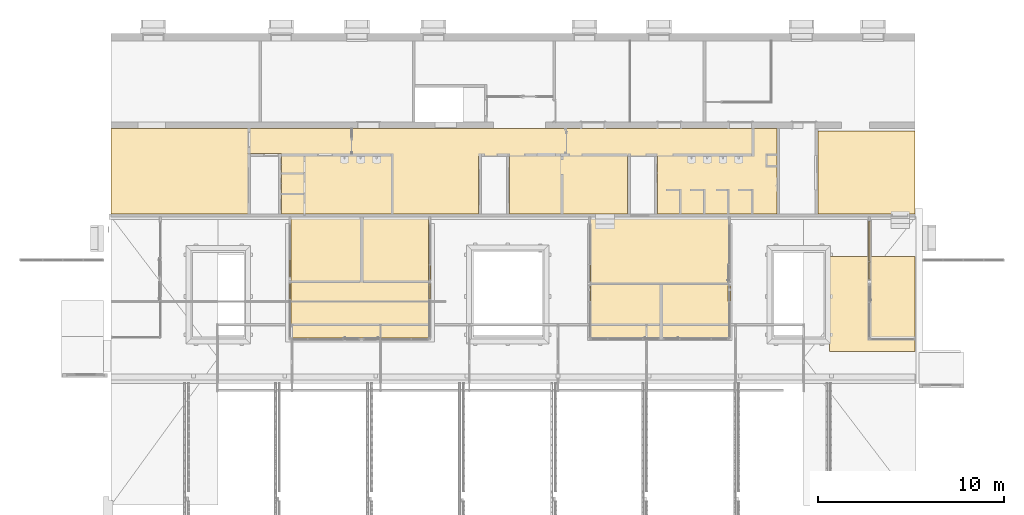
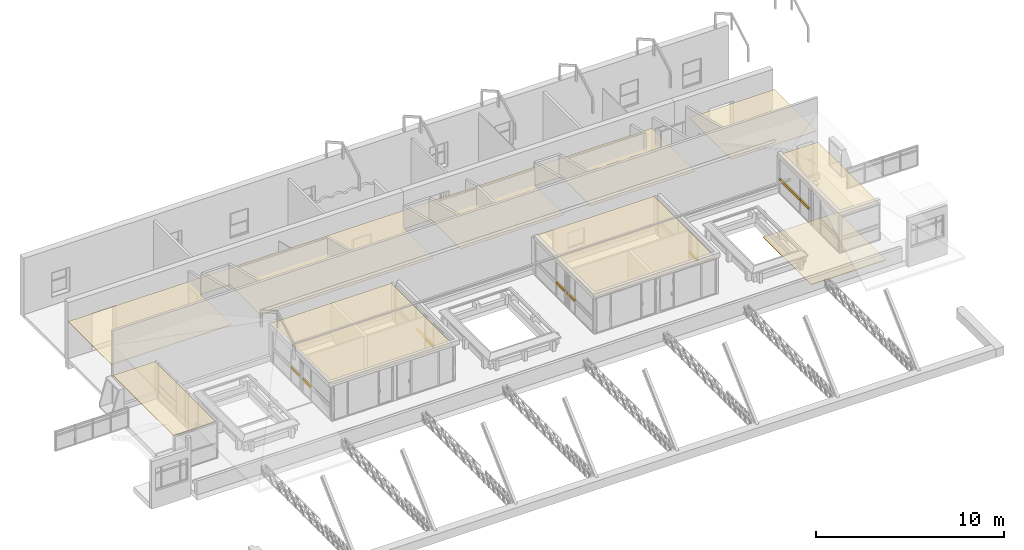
# One storey, part 149 of 153: 9 curtain walls, 3 coverings, 8 elements without a shape of their own.
"""IFC4 building model written with IfcOpenShell, lengths in metres."""

from ifc_helpers import new_model, entity, si_unit, converted_unit, derived_unit, direction, frame, origin, place, context, subcontext, project, spatial, indexed_curve, outline, extrude, material, type_object, element, aggregate, save


model = new_model("IFC4")

# Units and contexts
model_context = context("Model", 3, precision=1e-05, world=origin(), true_north=direction((6.123031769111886e-17, 1.0)))
body_context = subcontext(model_context, "Body", "Model", "MODEL_VIEW")
ifc_project = project(units=[si_unit("LENGTHUNIT", "METRE"), si_unit("AREAUNIT", "SQUARE_METRE"), si_unit("VOLUMEUNIT", "CUBIC_METRE"), converted_unit("PLANEANGLEUNIT", "DEGREE", entity("IfcRatioMeasure", 0.017453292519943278), si_unit("PLANEANGLEUNIT", "RADIAN"), dimensions=[0, 0, 0, 0, 0, 0, 0]), si_unit("MASSUNIT", "GRAM", prefix="KILO"), derived_unit("MASSDENSITYUNIT", [(si_unit("MASSUNIT", "GRAM", prefix="KILO"), 1), (si_unit("LENGTHUNIT", "METRE"), -3)]), derived_unit("MOMENTOFINERTIAUNIT", [(si_unit("LENGTHUNIT", "METRE"), 4)]), si_unit("TIMEUNIT", "SECOND"), si_unit("FREQUENCYUNIT", "HERTZ"), si_unit("THERMODYNAMICTEMPERATUREUNIT", "DEGREE_CELSIUS"), derived_unit("THERMALTRANSMITTANCEUNIT", [(si_unit("MASSUNIT", "GRAM", prefix="KILO"), 1), (si_unit("THERMODYNAMICTEMPERATUREUNIT", "KELVIN"), -1), (si_unit("TIMEUNIT", "SECOND"), -3)]), derived_unit("VOLUMETRICFLOWRATEUNIT", [(si_unit("LENGTHUNIT", "METRE"), 3), (si_unit("TIMEUNIT", "SECOND"), -1)]), derived_unit("MASSFLOWRATEUNIT", [(si_unit("MASSUNIT", "GRAM", prefix="KILO"), 1), (si_unit("TIMEUNIT", "SECOND"), -1)]), derived_unit("ROTATIONALFREQUENCYUNIT", [(si_unit("TIMEUNIT", "SECOND"), -1)]), si_unit("ELECTRICCURRENTUNIT", "AMPERE"), si_unit("ELECTRICVOLTAGEUNIT", "VOLT"), si_unit("POWERUNIT", "WATT"), si_unit("FORCEUNIT", "NEWTON", prefix="KILO"), si_unit("ILLUMINANCEUNIT", "LUX"), si_unit("LUMINOUSFLUXUNIT", "LUMEN"), si_unit("LUMINOUSINTENSITYUNIT", "CANDELA"), derived_unit("USERDEFINED", [(si_unit("MASSUNIT", "GRAM", prefix="KILO"), -1), (si_unit("LENGTHUNIT", "METRE"), -2), (si_unit("TIMEUNIT", "SECOND"), 3), (si_unit("LUMINOUSFLUXUNIT", "LUMEN"), 1)]), derived_unit("SOUNDPOWERUNIT", [(si_unit("MASSUNIT", "GRAM", prefix="KILO"), 1), (si_unit("LENGTHUNIT", "METRE"), 2), (si_unit("TIMEUNIT", "SECOND"), -3)]), derived_unit("SOUNDPRESSUREUNIT", [(si_unit("MASSUNIT", "GRAM", prefix="KILO"), 1), (si_unit("LENGTHUNIT", "METRE"), -1), (si_unit("TIMEUNIT", "SECOND"), -2)]), derived_unit("LINEARVELOCITYUNIT", [(si_unit("LENGTHUNIT", "METRE"), 1), (si_unit("TIMEUNIT", "SECOND"), -1)]), si_unit("PRESSUREUNIT", "PASCAL"), derived_unit("USERDEFINED", [(si_unit("LENGTHUNIT", "METRE"), -2), (si_unit("MASSUNIT", "GRAM", prefix="KILO"), 1), (si_unit("TIMEUNIT", "SECOND"), -2)]), derived_unit("LINEARFORCEUNIT", [(si_unit("MASSUNIT", "GRAM", prefix="KILO"), 1), (si_unit("LENGTHUNIT", "METRE"), 1), (si_unit("TIMEUNIT", "SECOND"), -2), (si_unit("LENGTHUNIT", "METRE"), -1)]), derived_unit("PLANARFORCEUNIT", [(si_unit("MASSUNIT", "GRAM", prefix="KILO"), 1), (si_unit("LENGTHUNIT", "METRE"), 1), (si_unit("TIMEUNIT", "SECOND"), -2), (si_unit("LENGTHUNIT", "METRE"), -2)])], contexts=[model_context])

# Site, building, storey
site_placement = place(None, origin())
site = spatial("IfcSite", under=ifc_project, at=site_placement, Name="Superficie", CompositionType="ELEMENT")
building_placement = place(site_placement, origin())
building = spatial("IfcBuilding", under=site, at=building_placement, CompositionType="ELEMENT")
storey_placement = place(building_placement, frame((0.0, 0.0, 3.5999999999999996)))
storey = spatial("IfcBuildingStorey", under=building, at=storey_placement, Name="Nivel 1", CompositionType="ELEMENT", Elevation=3.5999999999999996)

# Curtain walls
curtain_wall_type_1 = type_object("IfcCurtainWallType", Name="Muro cortina:Muro cortina - simple", PredefinedType="NOTDEFINED")
curtain_wall_1_placement = place(storey_placement, frame((0.0, 0.0, -3.5999999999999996)))
curtain_wall_1 = element("IfcCurtainWall", 1, at=curtain_wall_1_placement, inside=storey, type_object=curtain_wall_type_1, Name="Muro cortina:Muro cortina - simple", ObjectType="Muro cortina:Muro cortina - simple", PredefinedType="NOTDEFINED")
ifc_material_1 = material(Name="<Unnamed>")
curtain_wall_type_2 = type_object("IfcCurtainWallType", Name="Muro básico:Por defecto - 10 cm", PredefinedType="NOTDEFINED")
curtain_wall_2_placement = place(storey_placement, frame((18.12679901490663, 2.260232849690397, 0.855), z_axis=(0.0, 0.0, 1.0), x_axis=(0.0, 1.0, 0.0)))
curtain_wall_2 = element("IfcCurtainWall", 2, at=curtain_wall_2_placement, type_object=curtain_wall_type_2, material=ifc_material_1, Name="Muro básico:Por defecto - 10 cm", ObjectType="Muro básico:Por defecto - 10 cm", PredefinedType="NOTDEFINED", context=body_context, shape_type="SweptSolid", body=[
    extrude(outline(indexed_curve([(0.9099999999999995, 0.04999999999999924), (6.55622232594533e-17, 0.04999999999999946), (-6.55622232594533e-17, -0.04999999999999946), (0.9099999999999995, -0.049999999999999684), (0.9099999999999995, 0.04999999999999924)], self_intersect=False)), origin(), (0.0, 0.0, 1.0), 0.15000000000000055),
])
curtain_wall_3_placement = place(storey_placement, frame((18.126799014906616, 3.220232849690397, 0.855), z_axis=(0.0, 0.0, 1.0), x_axis=(0.0, 1.0, 0.0)))
curtain_wall_3 = element("IfcCurtainWall", 3, at=curtain_wall_3_placement, type_object=curtain_wall_type_2, material=ifc_material_1, Name="Muro básico:Por defecto - 10 cm", ObjectType="Muro básico:Por defecto - 10 cm", PredefinedType="NOTDEFINED", context=body_context, shape_type="SweptSolid", body=[
    extrude(outline(indexed_curve([(2.1561603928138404, 0.049999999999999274), (6.55622232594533e-17, 0.04999999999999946), (-6.55622232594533e-17, -0.04999999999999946), (2.1561603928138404, -0.04999999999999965), (2.1561603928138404, 0.049999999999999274)], self_intersect=False)), origin(), (0.0, 0.0, 1.0), 0.15000000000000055),
])
aggregate(curtain_wall_1, [curtain_wall_2, curtain_wall_3])

curtain_wall_4_placement = place(storey_placement, frame((0.0, 0.0, -3.5999999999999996)))
curtain_wall_4 = element("IfcCurtainWall", 4, at=curtain_wall_4_placement, inside=storey, type_object=curtain_wall_type_1, Name="Muro cortina:Muro cortina - simple", ObjectType="Muro cortina:Muro cortina - simple", PredefinedType="NOTDEFINED")
curtain_wall_5_placement = place(storey_placement, frame((10.596799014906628, 1.0720831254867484, 0.855), z_axis=(0.0, 0.0, 1.0), x_axis=(0.0, 1.0, 0.0)))
curtain_wall_5 = element("IfcCurtainWall", 5, at=curtain_wall_5_placement, type_object=curtain_wall_type_2, material=ifc_material_1, Name="Muro básico:Por defecto - 10 cm", ObjectType="Muro básico:Por defecto - 10 cm", PredefinedType="NOTDEFINED", context=body_context, shape_type="SweptSolid", body=[
    extrude(outline(indexed_curve([(0.8500000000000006, 0.04999999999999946), (0.0, 0.04999999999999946), (0.0, -0.04999999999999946), (0.8500000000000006, -0.04999999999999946), (0.8500000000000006, 0.04999999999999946)], self_intersect=False)), origin(), (0.0, 0.0, 1.0), 0.15000000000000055),
])
aggregate(curtain_wall_4, [curtain_wall_5])

curtain_wall_6_placement = place(storey_placement, frame((0.0, 0.0, -3.5999999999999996)))
curtain_wall_6 = element("IfcCurtainWall", 6, at=curtain_wall_6_placement, inside=storey, type_object=curtain_wall_type_1, Name="Muro cortina:Muro cortina - simple", ObjectType="Muro cortina:Muro cortina - simple", PredefinedType="NOTDEFINED")
curtain_wall_7_placement = place(storey_placement, frame((3.091799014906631, 1.0720831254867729, 0.855), z_axis=(0.0, 0.0, 1.0), x_axis=(0.0, 1.0, 0.0)))
curtain_wall_7 = element("IfcCurtainWall", 7, at=curtain_wall_7_placement, type_object=curtain_wall_type_2, material=ifc_material_1, Name="Muro básico:Por defecto - 10 cm", ObjectType="Muro básico:Por defecto - 10 cm", PredefinedType="NOTDEFINED", context=body_context, shape_type="SweptSolid", body=[
    extrude(outline(indexed_curve([(0.8500000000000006, 0.05), (0.0, 0.05), (0.0, -0.05), (0.8500000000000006, -0.05), (0.8500000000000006, 0.05)], self_intersect=False)), origin(), (0.0, 0.0, 1.0), 0.15000000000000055),
])
aggregate(curtain_wall_6, [curtain_wall_7])

curtain_wall_8_placement = place(storey_placement, frame((0.0, 0.0, -3.5999999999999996)))
curtain_wall_8 = element("IfcCurtainWall", 8, at=curtain_wall_8_placement, inside=storey, type_object=curtain_wall_type_1, Name="Muro cortina:Muro cortina - simple", ObjectType="Muro cortina:Muro cortina - simple", PredefinedType="NOTDEFINED")
curtain_wall_9_placement = place(storey_placement, frame((3.0917990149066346, 2.122083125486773, 0.855), z_axis=(0.0, 0.0, 1.0), x_axis=(0.0, 1.0, 0.0)))
curtain_wall_9 = element("IfcCurtainWall", 9, at=curtain_wall_9_placement, type_object=curtain_wall_type_2, material=ifc_material_1, Name="Muro básico:Por defecto - 10 cm", ObjectType="Muro básico:Por defecto - 10 cm", PredefinedType="NOTDEFINED", context=body_context, shape_type="SweptSolid", body=[
    extrude(outline(indexed_curve([(0.9100000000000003, 0.049999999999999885), (6.015928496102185e-17, 0.05), (-6.015928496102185e-17, -0.05), (0.9100000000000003, -0.05000000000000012), (0.9100000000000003, 0.049999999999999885)], self_intersect=False)), origin(), (0.0, 0.0, 1.0), 0.15000000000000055),
])
aggregate(curtain_wall_8, [curtain_wall_9])

curtain_wall_10_placement = place(storey_placement, frame((0.0, 0.0, -3.5999999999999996)))
curtain_wall_10 = element("IfcCurtainWall", 10, at=curtain_wall_10_placement, inside=storey, type_object=curtain_wall_type_1, Name="Muro cortina:Muro cortina - simple", ObjectType="Muro cortina:Muro cortina - simple", PredefinedType="NOTDEFINED")
curtain_wall_11_placement = place(storey_placement, frame((-5.5182009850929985, 1.2063932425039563, 0.8300000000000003), z_axis=(0.0, 0.0, 1.0), x_axis=(0.0, 1.0, 0.0)))
curtain_wall_11 = element("IfcCurtainWall", 11, at=curtain_wall_11_placement, type_object=curtain_wall_type_2, material=ifc_material_1, Name="Muro básico:Por defecto - 10 cm", ObjectType="Muro básico:Por defecto - 10 cm", PredefinedType="NOTDEFINED", context=body_context, shape_type="SweptSolid", body=[
    extrude(outline(indexed_curve([(0.8250000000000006, 0.04999999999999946), (0.0, 0.04999999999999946), (0.0, -0.04999999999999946), (0.8250000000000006, -0.04999999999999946), (0.8250000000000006, 0.04999999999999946)], self_intersect=False)), origin(), (0.0, 0.0, 1.0), 0.1750000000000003),
])
aggregate(curtain_wall_10, [curtain_wall_11])

curtain_wall_12_placement = place(storey_placement, frame((0.0, 0.0, -3.5999999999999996)))
curtain_wall_12 = element("IfcCurtainWall", 12, at=curtain_wall_12_placement, inside=storey, type_object=curtain_wall_type_1, Name="Muro cortina:Muro cortina - simple", ObjectType="Muro cortina:Muro cortina - simple", PredefinedType="NOTDEFINED")
curtain_wall_13_placement = place(storey_placement, frame((-5.513200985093, 2.2413932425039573, 0.855), z_axis=(0.0, 0.0, 1.0), x_axis=(0.0, 1.0, 0.0)))
curtain_wall_13 = element("IfcCurtainWall", 13, at=curtain_wall_13_placement, type_object=curtain_wall_type_2, material=ifc_material_1, Name="Muro básico:Por defecto - 10 cm", ObjectType="Muro básico:Por defecto - 10 cm", PredefinedType="NOTDEFINED", context=body_context, shape_type="SweptSolid", body=[
    extrude(outline(indexed_curve([(0.7788396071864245, 0.050000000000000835), (6.556222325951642e-17, 0.050000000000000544), (-6.556222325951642e-17, -0.050000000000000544), (0.7788396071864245, -0.05000000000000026), (0.7788396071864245, 0.050000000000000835)], self_intersect=False)), origin(), (0.0, 0.0, 1.0), 0.15000000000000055),
])
aggregate(curtain_wall_12, [curtain_wall_13])

curtain_wall_14_placement = place(storey_placement, frame((0.0, 0.0, -3.5999999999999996)))
curtain_wall_14 = element("IfcCurtainWall", 14, at=curtain_wall_14_placement, inside=storey, type_object=curtain_wall_type_1, Name="Muro cortina:Muro cortina - simple", ObjectType="Muro cortina:Muro cortina - simple", PredefinedType="NOTDEFINED")
curtain_wall_15_placement = place(storey_placement, frame((-13.023200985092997, 1.211393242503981, 0.8300000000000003), z_axis=(0.0, 0.0, 1.0), x_axis=(0.0, 1.0, 0.0)))
curtain_wall_15 = element("IfcCurtainWall", 15, at=curtain_wall_15_placement, type_object=curtain_wall_type_2, material=ifc_material_1, Name="Muro básico:Por defecto - 10 cm", ObjectType="Muro básico:Por defecto - 10 cm", PredefinedType="NOTDEFINED", context=body_context, shape_type="SweptSolid", body=[
    extrude(outline(indexed_curve([(0.8250000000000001, 0.04999999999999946), (0.0, 0.04999999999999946), (0.0, -0.04999999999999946), (0.8250000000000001, -0.04999999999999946), (0.8250000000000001, 0.04999999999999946)], self_intersect=False)), origin(), (0.0, 0.0, 1.0), 0.1750000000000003),
])
aggregate(curtain_wall_14, [curtain_wall_15])

curtain_wall_16_placement = place(storey_placement, frame((0.0, 0.0, -3.5999999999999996)))
curtain_wall_16 = element("IfcCurtainWall", 16, at=curtain_wall_16_placement, inside=storey, type_object=curtain_wall_type_1, Name="Muro cortina:Muro cortina - simple", ObjectType="Muro cortina:Muro cortina - simple", PredefinedType="NOTDEFINED")
curtain_wall_17_placement = place(storey_placement, frame((-13.023200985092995, 2.391393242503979, 0.855), z_axis=(0.0, 0.0, 1.0), x_axis=(0.0, 1.0, 0.0)))
curtain_wall_17 = element("IfcCurtainWall", 17, at=curtain_wall_17_placement, type_object=curtain_wall_type_2, material=ifc_material_1, Name="Muro básico:Por defecto - 10 cm", ObjectType="Muro básico:Por defecto - 10 cm", PredefinedType="NOTDEFINED", context=body_context, shape_type="SweptSolid", body=[
    extrude(outline(indexed_curve([(0.9099999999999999, 0.049999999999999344), (6.015928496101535e-17, 0.04999999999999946), (-6.015928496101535e-17, -0.04999999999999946), (0.9099999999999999, -0.04999999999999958), (0.9099999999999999, 0.049999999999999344)], self_intersect=False)), origin(), (0.0, 0.0, 1.0), 0.15000000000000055),
])
aggregate(curtain_wall_16, [curtain_wall_17])

# Coverings
ifc_material_2 = material(Name="Lámina de enlucido perforada", Category="Placa de yeso laminado")
covering_type_1 = type_object("IfcCoveringType", Name="Techo compuesto:Falso techo 2 de placa de yeso laminado", PredefinedType="CEILING")
covering_1_placement = place(storey_placement, origin())
element("IfcCovering", 18, at=covering_1_placement, inside=storey, type_object=covering_type_1, material=ifc_material_2, Name="Techo compuesto:Falso techo 2 de placa de yeso laminado", ObjectType="Techo compuesto:Falso techo 2 de placa de yeso laminado", PredefinedType="CEILING", context=body_context, shape_type="SweptSolid", body=[
    extrude(outline(indexed_curve([(-2.2975000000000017, -2.552000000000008), (2.2975, -2.552000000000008), (2.297500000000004, 2.552000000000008), (-2.2975000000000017, 2.552000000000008), (-2.2975000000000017, -2.552000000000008)], self_intersect=False)), frame((18.28929901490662, 0.9237137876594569, -0.9400000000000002), z_axis=(0.0, 0.0, 1.0), x_axis=(-1.0, 0.0, 0.0)), (0.0, 0.0, 1.0), 0.030000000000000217),
])
covering_type_2 = type_object("IfcCoveringType", Name="Techo compuesto:Falso techo 2 de placa de yeso laminado", PredefinedType="CEILING")
covering_2_placement = place(storey_placement, origin())
element("IfcCovering", 19, at=covering_2_placement, inside=storey, type_object=covering_type_2, material=ifc_material_2, Name="Techo compuesto:Falso techo 2 de placa de yeso laminado", ObjectType="Techo compuesto:Falso techo 2 de placa de yeso laminado", PredefinedType="CEILING", context=body_context, shape_type="SweptSolid", body=[
    extrude(outline(indexed_curve([(-3.2149999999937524, -1.2950000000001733), (3.2149999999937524, -1.2950000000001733), (3.2149999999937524, 1.2950000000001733), (-3.2149999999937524, 1.2950000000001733), (-3.2149999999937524, -1.2950000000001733)], self_intersect=False)), frame((-21.3382009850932, 2.410829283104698, 2.3), z_axis=(0.0, 0.0, 1.0), x_axis=(0.0, -1.0, 0.0)), (0.0, 0.0, 1.0), 0.029999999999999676),
    extrude(outline(indexed_curve([(-3.255298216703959, -1.2050000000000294), (3.255298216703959, -1.2050000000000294), (3.255298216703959, 1.2050000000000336), (-3.255298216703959, 1.205000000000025), (-3.255298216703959, -1.2050000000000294)], self_intersect=False)), frame((19.38179901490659, 2.370531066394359, 2.3), z_axis=(0.0, 0.0, 1.0), x_axis=(0.0, -1.0, 0.0)), (0.0, 0.0, 1.0), 0.029999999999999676),
    extrude(outline(indexed_curve([(-3.259373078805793, -3.7024999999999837), (3.259373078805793, -3.7024999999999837), (3.259373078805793, 3.7024999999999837), (-3.259373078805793, 3.7024999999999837), (-3.259373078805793, -3.7024999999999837)], self_intersect=False)), frame((6.844299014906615, 2.3664562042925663, 2.3), z_axis=(0.0, 0.0, 1.0), x_axis=(0.0, -1.0, 0.0)), (0.0, 0.0, 1.0), 0.029999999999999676),
    extrude(outline(indexed_curve([(-3.2652982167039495, -3.7024999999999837), (3.2652982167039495, -3.7024999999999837), (3.2652982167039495, 3.7024999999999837), (-3.2652982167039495, 3.7024999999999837), (-3.2652982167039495, -3.7024999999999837)], self_intersect=False)), frame((-9.270700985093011, 2.3605310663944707, 2.3), z_axis=(0.0, 0.0, 1.0), x_axis=(0.0, -1.0, 0.0)), (0.0, 0.0, 1.0), 0.029999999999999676),
])
covering_type_3 = type_object("IfcCoveringType", Name="Techo compuesto:Falso techo 2 de placa de yeso laminado", PredefinedType="CEILING")
covering_3_placement = place(storey_placement, origin())
element("IfcCovering", 20, at=covering_3_placement, inside=storey, type_object=covering_type_3, material=ifc_material_2, Name="Techo compuesto:Falso techo 2 de placa de yeso laminado", ObjectType="Techo compuesto:Falso techo 2 de placa de yeso laminado", PredefinedType="CEILING", context=body_context, shape_type="SweptSolid", body=[
    extrude(outline(indexed_curve([(-2.6128985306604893, -2.225000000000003), (2.6128985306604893, -2.225000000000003), (2.6128985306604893, 2.225000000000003), (-2.6128985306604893, 2.225000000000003), (-2.6128985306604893, -2.225000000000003)], self_intersect=False)), frame((17.97390048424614, 8.000829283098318, 2.9199999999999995), z_axis=(0.0, 0.0, 1.0), x_axis=(-1.0, 0.0, 0.0)), (0.0, 0.0, 1.0), 0.029999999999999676),
    extrude(outline(indexed_curve([(-16.966775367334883, -2.8381250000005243), (18.827427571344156, -2.8381250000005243), (18.82742757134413, 1.756875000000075), (11.473224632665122, 1.7568750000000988), (11.473224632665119, -1.4931250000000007), (9.673224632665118, -1.4931249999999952), (9.673224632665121, 1.7568750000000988), (-0.9267753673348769, 1.7568750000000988), (-0.9267753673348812, -1.353124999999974), (-2.5867753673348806, -1.3531249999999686), (-2.5867753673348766, 1.7568750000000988), (-8.946775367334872, 1.7568750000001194), (-8.946775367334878, -1.3431249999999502), (-10.54677536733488, -1.3431249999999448), (-10.546775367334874, 1.7568750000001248), (-16.966775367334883, 1.756875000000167), (-16.966775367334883, -2.8381250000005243)], self_intersect=False)), frame((-3.8157734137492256, 7.532704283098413, 2.9200000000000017), z_axis=(0.0, 0.0, 1.0), x_axis=(-1.0, 0.0, 0.0)), (0.0, 0.0, 1.0), 0.029999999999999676),
])

save(model, "model.ifc")
